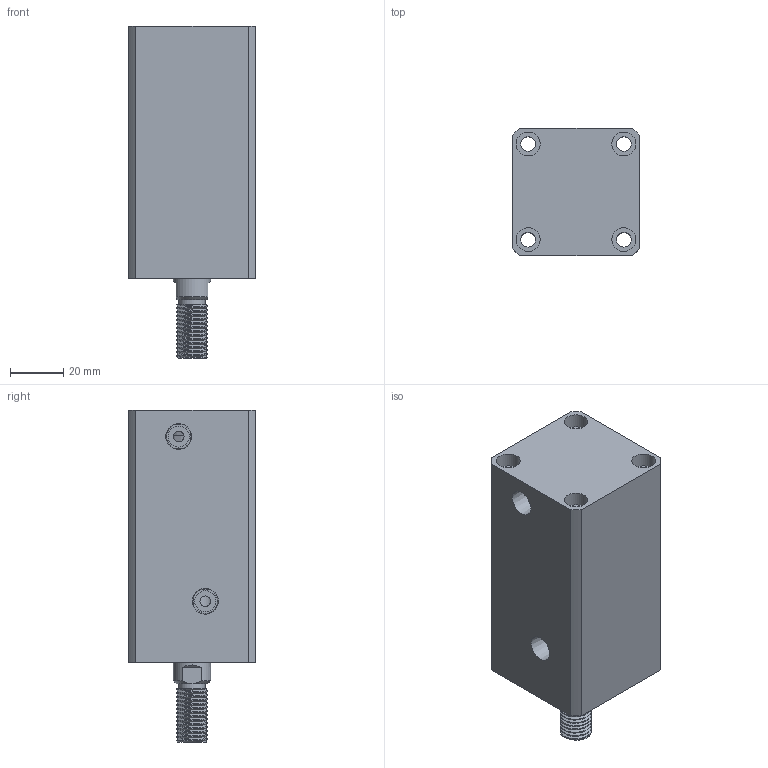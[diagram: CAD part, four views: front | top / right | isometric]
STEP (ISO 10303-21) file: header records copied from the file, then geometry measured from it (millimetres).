
FILE_DESCRIPTION(/* description */ (''),/* implementation_level */ '2;1');
FILE_NAME(/* name */ 'CHTB-sd25x50w.stp',/* time_stamp */ '2022-04-29T14:30:40+08:00',/* author */ (''),/* organization */ (''),/* preprocessor_version */ 'ST-DEVELOPER v16.7',/* originating_system */ 'SIEMENS PLM Software NX 12.0',/* authorisation */ '');
FILE_SCHEMA (('AUTOMOTIVE_DESIGN { 1 0 10303 214 3 1 1 1 }'));
Length unit declared in the file: millimetre
Products named in the file (1): CHTB-sd25x50w
Bounding box: 48 x 48 x 125 mm (x, y, z)
Volume: 190654.3 mm3; surface area: 49280.3 mm2
Topology: 3 solids, 3 shells, 432 faces, 1189 edges, 810 vertices
Faces by surface type: plane 279, extrusion 94, cylinder 41, bspline 10, cone 7, torus 1
Full cylindrical faces by diameter (mm): 3 x2, 4 x2, 5.6 x4, 7.9 x2, 9 x8, 10 x1, 14 x2, 21 x2, 23 x2, 25 x5, 31 x1
Entity records: 21432 total; most frequent: CARTESIAN_POINT 8721, ORIENTED_EDGE 2276, DIRECTION 1700, EDGE_CURVE 1138, VECTOR 864, VERTEX_POINT 799, LINE 770, EDGE_LOOP 531
